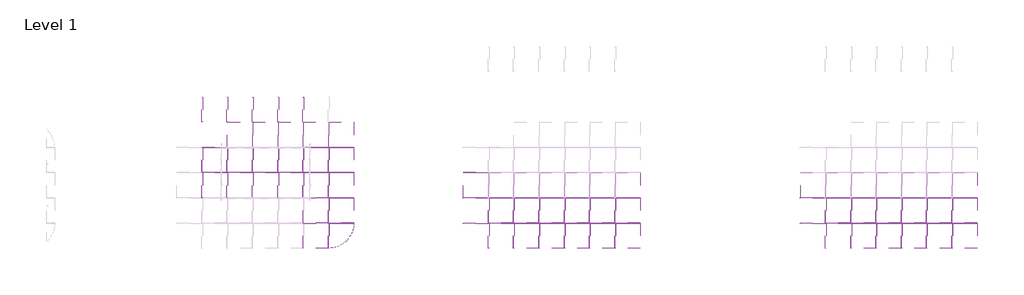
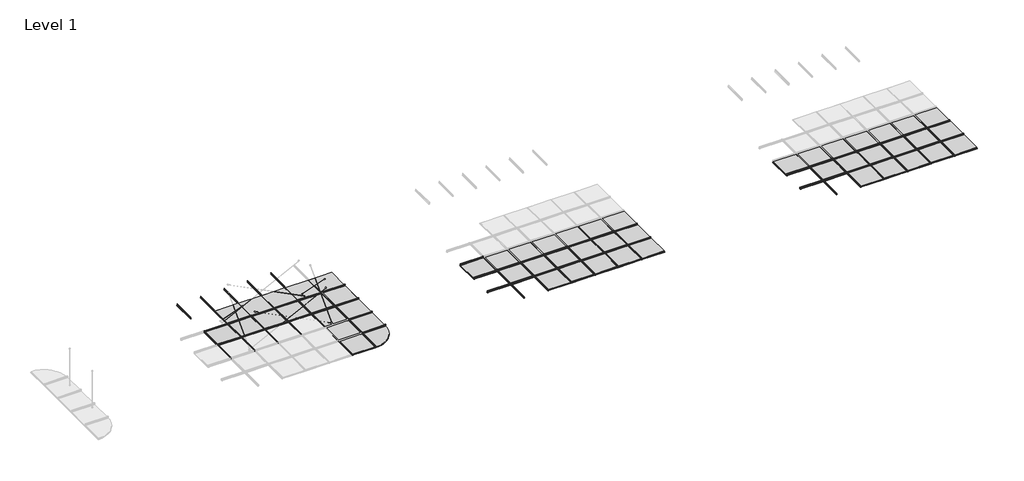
# One storey, part 2 of 3: 86 members, 53 plates.
"""IFC4 building model written with IfcOpenShell, lengths in millimetres."""

from ifc_helpers import new_model, si_unit, origin, place, context, project, spatial, transform, mapped, element, save
from components import circular_mullion_88ff0090, circular_mullion_f9b5ef4a, circular_mullion_51bf8350, circular_mullion_cross_tees_bf580255, plate_e06be09b, plate_8db3f6ee

model = new_model("IFC4")

# Units and contexts
model_context = context("Model", 3, world=origin())
ifc_project = project(units=[si_unit("LENGTHUNIT", "METRE", prefix="MILLI")], contexts=[model_context])

# Site, building, storey
site = spatial("IfcSite", under=ifc_project)
building = spatial("IfcBuilding", under=site)
storey = spatial("IfcBuildingStorey", under=building, Name="Level 1", Elevation=0.0)

# Members
placement = place(None, origin())
circular_mullion_shape = circular_mullion_88ff0090(model_context)
element("IfcMember", 1, ObjectType="Circular Mullion : Main Runners", at=placement, inside=storey, context=model_context, shape_type="MappedRepresentation", body=[
    mapped(circular_mullion_shape, transform((-2507.3919311, 8276.1970288, 2001.0), x_axis=(0.0, 1.0, 0.0), y_axis=(0.0, 0.0, -1.0), z_axis=(-1.0, 0.0, 0.0))),
])
element("IfcMember", 2, ObjectType="Circular Mullion : Main Runners", at=placement, inside=storey, context=model_context, shape_type="MappedRepresentation", body=[
    mapped(circular_mullion_shape, transform((-1907.3919311, 8276.1970288, 2001.0), x_axis=(0.0, 1.0, 0.0), y_axis=(0.0, 0.0, -1.0), z_axis=(-1.0, 0.0, 0.0))),
])
element("IfcMember", 3, ObjectType="Circular Mullion : Main Runners", at=placement, inside=storey, context=model_context, shape_type="MappedRepresentation", body=[
    mapped(circular_mullion_shape, transform((-1307.3919311, 8276.1970288, 2001.0), x_axis=(0.0, 1.0, 0.0), y_axis=(0.0, 0.0, -1.0), z_axis=(-1.0, 0.0, 0.0))),
])
element("IfcMember", 4, ObjectType="Circular Mullion : Main Runners", at=placement, inside=storey, context=model_context, shape_type="MappedRepresentation", body=[
    mapped(circular_mullion_shape, transform((-707.3919311, 8276.1970288, 2001.0), x_axis=(0.0, 1.0, 0.0), y_axis=(0.0, 0.0, -1.0), z_axis=(-1.0, 0.0, 0.0))),
])
element("IfcMember", 5, ObjectType="Circular Mullion : Main Runners", at=placement, inside=storey, context=model_context, shape_type="MappedRepresentation", body=[
    mapped(circular_mullion_shape, transform((-107.3919311, 8276.1970288, 2001.0), x_axis=(0.0, 1.0, 0.0), y_axis=(0.0, 0.0, -1.0), z_axis=(-1.0, 0.0, 0.0))),
])
element("IfcMember", 6, ObjectType="Circular Mullion : Main Runners", at=placement, inside=storey, context=model_context, shape_type="MappedRepresentation", body=[
    mapped(circular_mullion_shape, transform((-2507.3919311, 8876.1970288, 2001.0), x_axis=(0.0, 1.0, 0.0), y_axis=(0.0, 0.0, -1.0), z_axis=(-1.0, 0.0, 0.0))),
])
element("IfcMember", 7, ObjectType="Circular Mullion : Main Runners", at=placement, inside=storey, context=model_context, shape_type="MappedRepresentation", body=[
    mapped(circular_mullion_shape, transform((-1907.3919311, 8876.1970288, 2001.0), x_axis=(0.0, 1.0, 0.0), y_axis=(0.0, 0.0, -1.0), z_axis=(-1.0, 0.0, 0.0))),
])
element("IfcMember", 8, ObjectType="Circular Mullion : Main Runners", at=placement, inside=storey, context=model_context, shape_type="MappedRepresentation", body=[
    mapped(circular_mullion_shape, transform((-1307.3919311, 8876.1970288, 2001.0), x_axis=(0.0, 1.0, 0.0), y_axis=(0.0, 0.0, -1.0), z_axis=(-1.0, 0.0, 0.0))),
])
element("IfcMember", 9, ObjectType="Circular Mullion : Main Runners", at=placement, inside=storey, context=model_context, shape_type="MappedRepresentation", body=[
    mapped(circular_mullion_shape, transform((-707.3919311, 8876.1970288, 2001.0), x_axis=(0.0, 1.0, 0.0), y_axis=(0.0, 0.0, -1.0), z_axis=(-1.0, 0.0, 0.0))),
])
element("IfcMember", 10, ObjectType="Circular Mullion : Main Runners", at=placement, inside=storey, context=model_context, shape_type="MappedRepresentation", body=[
    mapped(circular_mullion_shape, transform((-107.3919311, 8876.1970288, 2001.0), x_axis=(0.0, 1.0, 0.0), y_axis=(0.0, 0.0, -1.0), z_axis=(-1.0, 0.0, 0.0))),
])
element("IfcMember", 11, ObjectType="Circular Mullion : Main Runners", at=placement, inside=storey, context=model_context, shape_type="MappedRepresentation", body=[
    mapped(circular_mullion_shape, transform((4292.6080689, 7076.1970288, 2001.0), x_axis=(0.0, 1.0, 0.0), y_axis=(0.0, 0.0, -1.0), z_axis=(-1.0, 0.0, 0.0))),
])
element("IfcMember", 12, ObjectType="Circular Mullion : Main Runners", at=placement, inside=storey, context=model_context, shape_type="MappedRepresentation", body=[
    mapped(circular_mullion_shape, transform((4892.6080689, 7076.1970288, 2001.0), x_axis=(0.0, 1.0, 0.0), y_axis=(0.0, 0.0, -1.0), z_axis=(-1.0, 0.0, 0.0))),
])
element("IfcMember", 13, ObjectType="Circular Mullion : Main Runners", at=placement, inside=storey, context=model_context, shape_type="MappedRepresentation", body=[
    mapped(circular_mullion_shape, transform((5492.6080689, 7076.1970288, 2001.0), x_axis=(0.0, 1.0, 0.0), y_axis=(0.0, 0.0, -1.0), z_axis=(-1.0, 0.0, 0.0))),
])
element("IfcMember", 14, ObjectType="Circular Mullion : Main Runners", at=placement, inside=storey, context=model_context, shape_type="MappedRepresentation", body=[
    mapped(circular_mullion_shape, transform((6092.6080689, 7076.1970288, 2001.0), x_axis=(0.0, 1.0, 0.0), y_axis=(0.0, 0.0, -1.0), z_axis=(-1.0, 0.0, 0.0))),
])
element("IfcMember", 15, ObjectType="Circular Mullion : Main Runners", at=placement, inside=storey, context=model_context, shape_type="MappedRepresentation", body=[
    mapped(circular_mullion_shape, transform((6692.6080689, 7076.1970288, 2001.0), x_axis=(0.0, 1.0, 0.0), y_axis=(0.0, 0.0, -1.0), z_axis=(-1.0, 0.0, 0.0))),
])
element("IfcMember", 16, ObjectType="Circular Mullion : Main Runners", at=placement, inside=storey, context=model_context, shape_type="MappedRepresentation", body=[
    mapped(circular_mullion_shape, transform((7292.6080689, 7076.1970288, 2001.0), x_axis=(0.0, 1.0, 0.0), y_axis=(0.0, 0.0, -1.0), z_axis=(-1.0, 0.0, 0.0))),
])
element("IfcMember", 17, ObjectType="Circular Mullion : Main Runners", at=placement, inside=storey, context=model_context, shape_type="MappedRepresentation", body=[
    mapped(circular_mullion_shape, transform((4292.6080689, 7676.1970288, 2001.0), x_axis=(0.0, 1.0, 0.0), y_axis=(0.0, 0.0, -1.0), z_axis=(-1.0, 0.0, 0.0))),
])
element("IfcMember", 18, ObjectType="Circular Mullion : Main Runners", at=placement, inside=storey, context=model_context, shape_type="MappedRepresentation", body=[
    mapped(circular_mullion_shape, transform((4892.6080689, 7676.1970288, 2001.0), x_axis=(0.0, 1.0, 0.0), y_axis=(0.0, 0.0, -1.0), z_axis=(-1.0, 0.0, 0.0))),
])
element("IfcMember", 19, ObjectType="Circular Mullion : Main Runners", at=placement, inside=storey, context=model_context, shape_type="MappedRepresentation", body=[
    mapped(circular_mullion_shape, transform((5492.6080689, 7676.1970288, 2001.0), x_axis=(0.0, 1.0, 0.0), y_axis=(0.0, 0.0, -1.0), z_axis=(-1.0, 0.0, 0.0))),
])
element("IfcMember", 20, ObjectType="Circular Mullion : Main Runners", at=placement, inside=storey, context=model_context, shape_type="MappedRepresentation", body=[
    mapped(circular_mullion_shape, transform((6092.6080689, 7676.1970288, 2001.0), x_axis=(0.0, 1.0, 0.0), y_axis=(0.0, 0.0, -1.0), z_axis=(-1.0, 0.0, 0.0))),
])
element("IfcMember", 21, ObjectType="Circular Mullion : Main Runners", at=placement, inside=storey, context=model_context, shape_type="MappedRepresentation", body=[
    mapped(circular_mullion_shape, transform((6692.6080689, 7676.1970288, 2001.0), x_axis=(0.0, 1.0, 0.0), y_axis=(0.0, 0.0, -1.0), z_axis=(-1.0, 0.0, 0.0))),
])
element("IfcMember", 22, ObjectType="Circular Mullion : Main Runners", at=placement, inside=storey, context=model_context, shape_type="MappedRepresentation", body=[
    mapped(circular_mullion_shape, transform((7292.6080689, 7676.1970288, 2001.0), x_axis=(0.0, 1.0, 0.0), y_axis=(0.0, 0.0, -1.0), z_axis=(-1.0, 0.0, 0.0))),
])
element("IfcMember", 23, ObjectType="Circular Mullion : Main Runners", at=placement, inside=storey, context=model_context, shape_type="MappedRepresentation", body=[
    mapped(circular_mullion_shape, transform((12292.6080689, 7076.1970288, 2001.0), x_axis=(0.0, 1.0, 0.0), y_axis=(0.0, 0.0, -1.0), z_axis=(-1.0, 0.0, 0.0))),
])
element("IfcMember", 24, ObjectType="Circular Mullion : Main Runners", at=placement, inside=storey, context=model_context, shape_type="MappedRepresentation", body=[
    mapped(circular_mullion_shape, transform((12892.6080689, 7076.1970288, 2001.0), x_axis=(0.0, 1.0, 0.0), y_axis=(0.0, 0.0, -1.0), z_axis=(-1.0, 0.0, 0.0))),
])
element("IfcMember", 25, ObjectType="Circular Mullion : Main Runners", at=placement, inside=storey, context=model_context, shape_type="MappedRepresentation", body=[
    mapped(circular_mullion_shape, transform((13492.6080689, 7076.1970288, 2001.0), x_axis=(0.0, 1.0, 0.0), y_axis=(0.0, 0.0, -1.0), z_axis=(-1.0, 0.0, 0.0))),
])
element("IfcMember", 26, ObjectType="Circular Mullion : Main Runners", at=placement, inside=storey, context=model_context, shape_type="MappedRepresentation", body=[
    mapped(circular_mullion_shape, transform((14092.6080689, 7076.1970288, 2001.0), x_axis=(0.0, 1.0, 0.0), y_axis=(0.0, 0.0, -1.0), z_axis=(-1.0, 0.0, 0.0))),
])
element("IfcMember", 27, ObjectType="Circular Mullion : Main Runners", at=placement, inside=storey, context=model_context, shape_type="MappedRepresentation", body=[
    mapped(circular_mullion_shape, transform((14692.6080689, 7076.1970288, 2001.0), x_axis=(0.0, 1.0, 0.0), y_axis=(0.0, 0.0, -1.0), z_axis=(-1.0, 0.0, 0.0))),
])
element("IfcMember", 28, ObjectType="Circular Mullion : Main Runners", at=placement, inside=storey, context=model_context, shape_type="MappedRepresentation", body=[
    mapped(circular_mullion_shape, transform((15292.6080689, 7076.1970288, 2001.0), x_axis=(0.0, 1.0, 0.0), y_axis=(0.0, 0.0, -1.0), z_axis=(-1.0, 0.0, 0.0))),
])
element("IfcMember", 29, ObjectType="Circular Mullion : Main Runners", at=placement, inside=storey, context=model_context, shape_type="MappedRepresentation", body=[
    mapped(circular_mullion_shape, transform((12292.6080689, 7676.1970288, 2001.0), x_axis=(0.0, 1.0, 0.0), y_axis=(0.0, 0.0, -1.0), z_axis=(-1.0, 0.0, 0.0))),
])
element("IfcMember", 30, ObjectType="Circular Mullion : Main Runners", at=placement, inside=storey, context=model_context, shape_type="MappedRepresentation", body=[
    mapped(circular_mullion_shape, transform((12892.6080689, 7676.1970288, 2001.0), x_axis=(0.0, 1.0, 0.0), y_axis=(0.0, 0.0, -1.0), z_axis=(-1.0, 0.0, 0.0))),
])
element("IfcMember", 31, ObjectType="Circular Mullion : Main Runners", at=placement, inside=storey, context=model_context, shape_type="MappedRepresentation", body=[
    mapped(circular_mullion_shape, transform((13492.6080689, 7676.1970288, 2001.0), x_axis=(0.0, 1.0, 0.0), y_axis=(0.0, 0.0, -1.0), z_axis=(-1.0, 0.0, 0.0))),
])
element("IfcMember", 32, ObjectType="Circular Mullion : Main Runners", at=placement, inside=storey, context=model_context, shape_type="MappedRepresentation", body=[
    mapped(circular_mullion_shape, transform((14092.6080689, 7676.1970288, 2001.0), x_axis=(0.0, 1.0, 0.0), y_axis=(0.0, 0.0, -1.0), z_axis=(-1.0, 0.0, 0.0))),
])
element("IfcMember", 33, ObjectType="Circular Mullion : Main Runners", at=placement, inside=storey, context=model_context, shape_type="MappedRepresentation", body=[
    mapped(circular_mullion_shape, transform((14692.6080689, 7676.1970288, 2001.0), x_axis=(0.0, 1.0, 0.0), y_axis=(0.0, 0.0, -1.0), z_axis=(-1.0, 0.0, 0.0))),
])
element("IfcMember", 34, ObjectType="Circular Mullion : Main Runners", at=placement, inside=storey, context=model_context, shape_type="MappedRepresentation", body=[
    mapped(circular_mullion_shape, transform((15292.6080689, 7676.1970288, 2001.0), x_axis=(0.0, 1.0, 0.0), y_axis=(0.0, 0.0, -1.0), z_axis=(-1.0, 0.0, 0.0))),
])
circular_mullion_2_shape = circular_mullion_f9b5ef4a(model_context)
element("IfcMember", 35, ObjectType="Circular Mullion : Main Runners", at=placement, inside=storey, context=model_context, shape_type="MappedRepresentation", body=[
    mapped(circular_mullion_2_shape, transform((3680.7018185, 7076.1970288, 2001.0), x_axis=(0.0, 1.0, 0.0), y_axis=(0.0, 0.0, -1.0), z_axis=(-1.0, 0.0, 0.0))),
])
element("IfcMember", 36, ObjectType="Circular Mullion : Main Runners", at=placement, inside=storey, context=model_context, shape_type="MappedRepresentation", body=[
    mapped(circular_mullion_2_shape, transform((3680.7018185, 7676.1970288, 2001.0), x_axis=(0.0, 1.0, 0.0), y_axis=(0.0, 0.0, -1.0), z_axis=(-1.0, 0.0, 0.0))),
])
element("IfcMember", 37, ObjectType="Circular Mullion : Main Runners", at=placement, inside=storey, context=model_context, shape_type="MappedRepresentation", body=[
    mapped(circular_mullion_2_shape, transform((3680.7018185, 8276.1970288, 2001.0), x_axis=(0.0, 1.0, 0.0), y_axis=(0.0, 0.0, -1.0), z_axis=(-1.0, 0.0, 0.0))),
])
element("IfcMember", 38, ObjectType="Circular Mullion : Main Runners", at=placement, inside=storey, context=model_context, shape_type="MappedRepresentation", body=[
    mapped(circular_mullion_2_shape, transform((11680.7018185, 7076.1970288, 2001.0), x_axis=(0.0, 1.0, 0.0), y_axis=(0.0, 0.0, -1.0), z_axis=(-1.0, 0.0, 0.0))),
])
element("IfcMember", 39, ObjectType="Circular Mullion : Main Runners", at=placement, inside=storey, context=model_context, shape_type="MappedRepresentation", body=[
    mapped(circular_mullion_2_shape, transform((11680.7018185, 7676.1970288, 2001.0), x_axis=(0.0, 1.0, 0.0), y_axis=(0.0, 0.0, -1.0), z_axis=(-1.0, 0.0, 0.0))),
])
circular_mullion_3_shape = circular_mullion_51bf8350(model_context)
element("IfcMember", 40, ObjectType="Circular Mullion : Main Runners", at=placement, inside=storey, context=model_context, shape_type="MappedRepresentation", body=[
    mapped(circular_mullion_3_shape, transform((492.6080689, 7076.1970288, 2001.0), x_axis=(0.0, 1.0, 0.0), y_axis=(0.0, 0.0, -1.0), z_axis=(-1.0, 0.0, 0.0))),
])
element("IfcMember", 41, ObjectType="Circular Mullion : Main Runners", at=placement, inside=storey, context=model_context, shape_type="MappedRepresentation", body=[
    mapped(circular_mullion_3_shape, transform((492.6080689, 7676.1970288, 2001.0), x_axis=(0.0, 1.0, 0.0), y_axis=(0.0, 0.0, -1.0), z_axis=(-1.0, 0.0, 0.0))),
])
element("IfcMember", 42, ObjectType="Circular Mullion : Main Runners", at=placement, inside=storey, context=model_context, shape_type="MappedRepresentation", body=[
    mapped(circular_mullion_3_shape, transform((492.6080689, 8276.1970288, 2001.0), x_axis=(0.0, 1.0, 0.0), y_axis=(0.0, 0.0, -1.0), z_axis=(-1.0, 0.0, 0.0))),
])
element("IfcMember", 43, ObjectType="Circular Mullion : Main Runners", at=placement, inside=storey, context=model_context, shape_type="MappedRepresentation", body=[
    mapped(circular_mullion_3_shape, transform((492.6080689, 8876.1970288, 2001.0), x_axis=(0.0, 1.0, 0.0), y_axis=(0.0, 0.0, -1.0), z_axis=(-1.0, 0.0, 0.0))),
])
circular_mullion_cross_tees_shape = circular_mullion_cross_tees_bf580255(model_context)
element("IfcMember", 44, ObjectType="Circular Mullion : Cross Tees", at=placement, inside=storey, context=model_context, shape_type="MappedRepresentation", body=[
    mapped(circular_mullion_cross_tees_shape, transform((480.7018189, 7676.1970288, 2001.0), x_axis=(1.0, 0.0, 0.0), y_axis=(0.0, 0.0, -1.0), z_axis=(0.0, 1.0, 0.0))),
])
element("IfcMember", 45, ObjectType="Circular Mullion : Cross Tees", at=placement, inside=storey, context=model_context, shape_type="MappedRepresentation", body=[
    mapped(circular_mullion_cross_tees_shape, transform((-2519.2981811, 8276.1970288, 2001.0), x_axis=(1.0, 0.0, 0.0), y_axis=(0.0, 0.0, -1.0), z_axis=(0.0, 1.0, 0.0))),
])
element("IfcMember", 46, ObjectType="Circular Mullion : Cross Tees", at=placement, inside=storey, context=model_context, shape_type="MappedRepresentation", body=[
    mapped(circular_mullion_cross_tees_shape, transform((-1919.2981811, 8276.1970288, 2001.0), x_axis=(1.0, 0.0, 0.0), y_axis=(0.0, 0.0, -1.0), z_axis=(0.0, 1.0, 0.0))),
])
element("IfcMember", 47, ObjectType="Circular Mullion : Cross Tees", at=placement, inside=storey, context=model_context, shape_type="MappedRepresentation", body=[
    mapped(circular_mullion_cross_tees_shape, transform((-1319.2981811, 8276.1970288, 2001.0), x_axis=(1.0, 0.0, 0.0), y_axis=(0.0, 0.0, -1.0), z_axis=(0.0, 1.0, 0.0))),
])
element("IfcMember", 48, ObjectType="Circular Mullion : Cross Tees", at=placement, inside=storey, context=model_context, shape_type="MappedRepresentation", body=[
    mapped(circular_mullion_cross_tees_shape, transform((-719.2981811, 8276.1970288, 2001.0), x_axis=(1.0, 0.0, 0.0), y_axis=(0.0, 0.0, -1.0), z_axis=(0.0, 1.0, 0.0))),
])
element("IfcMember", 49, ObjectType="Circular Mullion : Cross Tees", at=placement, inside=storey, context=model_context, shape_type="MappedRepresentation", body=[
    mapped(circular_mullion_cross_tees_shape, transform((-119.2981811, 8276.1970288, 2001.0), x_axis=(1.0, 0.0, 0.0), y_axis=(0.0, 0.0, -1.0), z_axis=(0.0, 1.0, 0.0))),
])
element("IfcMember", 50, ObjectType="Circular Mullion : Cross Tees", at=placement, inside=storey, context=model_context, shape_type="MappedRepresentation", body=[
    mapped(circular_mullion_cross_tees_shape, transform((480.7018189, 8276.1970288, 2001.0), x_axis=(1.0, 0.0, 0.0), y_axis=(0.0, 0.0, -1.0), z_axis=(0.0, 1.0, 0.0))),
])
element("IfcMember", 51, ObjectType="Circular Mullion : Cross Tees", at=placement, inside=storey, context=model_context, shape_type="MappedRepresentation", body=[
    mapped(circular_mullion_cross_tees_shape, transform((-2519.2981811, 8876.1970288, 2001.0), x_axis=(1.0, 0.0, 0.0), y_axis=(0.0, 0.0, -1.0), z_axis=(0.0, 1.0, 0.0))),
])
element("IfcMember", 52, ObjectType="Circular Mullion : Cross Tees", at=placement, inside=storey, context=model_context, shape_type="MappedRepresentation", body=[
    mapped(circular_mullion_cross_tees_shape, transform((-1919.2981811, 8876.1970288, 2001.0), x_axis=(1.0, 0.0, 0.0), y_axis=(0.0, 0.0, -1.0), z_axis=(0.0, 1.0, 0.0))),
])
element("IfcMember", 53, ObjectType="Circular Mullion : Cross Tees", at=placement, inside=storey, context=model_context, shape_type="MappedRepresentation", body=[
    mapped(circular_mullion_cross_tees_shape, transform((-1319.2981811, 8876.1970288, 2001.0), x_axis=(1.0, 0.0, 0.0), y_axis=(0.0, 0.0, -1.0), z_axis=(0.0, 1.0, 0.0))),
])
element("IfcMember", 54, ObjectType="Circular Mullion : Cross Tees", at=placement, inside=storey, context=model_context, shape_type="MappedRepresentation", body=[
    mapped(circular_mullion_cross_tees_shape, transform((-719.2981811, 8876.1970288, 2001.0), x_axis=(1.0, 0.0, 0.0), y_axis=(0.0, 0.0, -1.0), z_axis=(0.0, 1.0, 0.0))),
])
element("IfcMember", 55, ObjectType="Circular Mullion : Cross Tees", at=placement, inside=storey, context=model_context, shape_type="MappedRepresentation", body=[
    mapped(circular_mullion_cross_tees_shape, transform((-119.2981811, 8876.1970288, 2001.0), x_axis=(1.0, 0.0, 0.0), y_axis=(0.0, 0.0, -1.0), z_axis=(0.0, 1.0, 0.0))),
])
element("IfcMember", 56, ObjectType="Circular Mullion : Cross Tees", at=placement, inside=storey, context=model_context, shape_type="MappedRepresentation", body=[
    mapped(circular_mullion_cross_tees_shape, transform((480.7018189, 8876.1970288, 2001.0), x_axis=(1.0, 0.0, 0.0), y_axis=(0.0, 0.0, -1.0), z_axis=(0.0, 1.0, 0.0))),
])
element("IfcMember", 57, ObjectType="Circular Mullion : Cross Tees", at=placement, inside=storey, context=model_context, shape_type="MappedRepresentation", body=[
    mapped(circular_mullion_cross_tees_shape, transform((4280.7018189, 7676.1970288, 2001.0), x_axis=(1.0, 0.0, 0.0), y_axis=(0.0, 0.0, -1.0), z_axis=(0.0, 1.0, 0.0))),
])
element("IfcMember", 58, ObjectType="Circular Mullion : Cross Tees", at=placement, inside=storey, context=model_context, shape_type="MappedRepresentation", body=[
    mapped(circular_mullion_cross_tees_shape, transform((4880.7018189, 7676.1970288, 2001.0), x_axis=(1.0, 0.0, 0.0), y_axis=(0.0, 0.0, -1.0), z_axis=(0.0, 1.0, 0.0))),
])
element("IfcMember", 59, ObjectType="Circular Mullion : Cross Tees", at=placement, inside=storey, context=model_context, shape_type="MappedRepresentation", body=[
    mapped(circular_mullion_cross_tees_shape, transform((5480.7018189, 7676.1970288, 2001.0), x_axis=(1.0, 0.0, 0.0), y_axis=(0.0, 0.0, -1.0), z_axis=(0.0, 1.0, 0.0))),
])
element("IfcMember", 60, ObjectType="Circular Mullion : Cross Tees", at=placement, inside=storey, context=model_context, shape_type="MappedRepresentation", body=[
    mapped(circular_mullion_cross_tees_shape, transform((6080.7018189, 7676.1970288, 2001.0), x_axis=(1.0, 0.0, 0.0), y_axis=(0.0, 0.0, -1.0), z_axis=(0.0, 1.0, 0.0))),
])
element("IfcMember", 61, ObjectType="Circular Mullion : Cross Tees", at=placement, inside=storey, context=model_context, shape_type="MappedRepresentation", body=[
    mapped(circular_mullion_cross_tees_shape, transform((6680.7018189, 7676.1970288, 2001.0), x_axis=(1.0, 0.0, 0.0), y_axis=(0.0, 0.0, -1.0), z_axis=(0.0, 1.0, 0.0))),
])
element("IfcMember", 62, ObjectType="Circular Mullion : Cross Tees", at=placement, inside=storey, context=model_context, shape_type="MappedRepresentation", body=[
    mapped(circular_mullion_cross_tees_shape, transform((7280.7018189, 7676.1970288, 2001.0), x_axis=(1.0, 0.0, 0.0), y_axis=(0.0, 0.0, -1.0), z_axis=(0.0, 1.0, 0.0))),
])
element("IfcMember", 63, ObjectType="Circular Mullion : Cross Tees", at=placement, inside=storey, context=model_context, shape_type="MappedRepresentation", body=[
    mapped(circular_mullion_cross_tees_shape, transform((12280.7018189, 7676.1970288, 2001.0), x_axis=(1.0, 0.0, 0.0), y_axis=(0.0, 0.0, -1.0), z_axis=(0.0, 1.0, 0.0))),
])
element("IfcMember", 64, ObjectType="Circular Mullion : Cross Tees", at=placement, inside=storey, context=model_context, shape_type="MappedRepresentation", body=[
    mapped(circular_mullion_cross_tees_shape, transform((12880.7018189, 7676.1970288, 2001.0), x_axis=(1.0, 0.0, 0.0), y_axis=(0.0, 0.0, -1.0), z_axis=(0.0, 1.0, 0.0))),
])
element("IfcMember", 65, ObjectType="Circular Mullion : Cross Tees", at=placement, inside=storey, context=model_context, shape_type="MappedRepresentation", body=[
    mapped(circular_mullion_cross_tees_shape, transform((13480.7018189, 7676.1970288, 2001.0), x_axis=(1.0, 0.0, 0.0), y_axis=(0.0, 0.0, -1.0), z_axis=(0.0, 1.0, 0.0))),
])
element("IfcMember", 66, ObjectType="Circular Mullion : Cross Tees", at=placement, inside=storey, context=model_context, shape_type="MappedRepresentation", body=[
    mapped(circular_mullion_cross_tees_shape, transform((14080.7018189, 7676.1970288, 2001.0), x_axis=(1.0, 0.0, 0.0), y_axis=(0.0, 0.0, -1.0), z_axis=(0.0, 1.0, 0.0))),
])
element("IfcMember", 67, ObjectType="Circular Mullion : Cross Tees", at=placement, inside=storey, context=model_context, shape_type="MappedRepresentation", body=[
    mapped(circular_mullion_cross_tees_shape, transform((14680.7018189, 7676.1970288, 2001.0), x_axis=(1.0, 0.0, 0.0), y_axis=(0.0, 0.0, -1.0), z_axis=(0.0, 1.0, 0.0))),
])
element("IfcMember", 68, ObjectType="Circular Mullion : Cross Tees", at=placement, inside=storey, context=model_context, shape_type="MappedRepresentation", body=[
    mapped(circular_mullion_cross_tees_shape, transform((15280.7018189, 7676.1970288, 2001.0), x_axis=(1.0, 0.0, 0.0), y_axis=(0.0, 0.0, -1.0), z_axis=(0.0, 1.0, 0.0))),
])
element("IfcMember", 69, ObjectType="Circular Mullion : Cross Tees", at=placement, inside=storey, context=model_context, shape_type="MappedRepresentation", body=[
    mapped(circular_mullion_cross_tees_shape, transform((480.7018189, 7076.1970288, 2001.0), x_axis=(1.0, 0.0, 0.0), y_axis=(0.0, 0.0, -1.0), z_axis=(0.0, 1.0, 0.0))),
])
element("IfcMember", 70, ObjectType="Circular Mullion : Cross Tees", at=placement, inside=storey, context=model_context, shape_type="MappedRepresentation", body=[
    mapped(circular_mullion_cross_tees_shape, transform((4280.7018189, 7076.1970288, 2001.0), x_axis=(1.0, 0.0, 0.0), y_axis=(0.0, 0.0, -1.0), z_axis=(0.0, 1.0, 0.0))),
])
element("IfcMember", 71, ObjectType="Circular Mullion : Cross Tees", at=placement, inside=storey, context=model_context, shape_type="MappedRepresentation", body=[
    mapped(circular_mullion_cross_tees_shape, transform((4880.7018189, 7076.1970288, 2001.0), x_axis=(1.0, 0.0, 0.0), y_axis=(0.0, 0.0, -1.0), z_axis=(0.0, 1.0, 0.0))),
])
element("IfcMember", 72, ObjectType="Circular Mullion : Cross Tees", at=placement, inside=storey, context=model_context, shape_type="MappedRepresentation", body=[
    mapped(circular_mullion_cross_tees_shape, transform((5480.7018189, 7076.1970288, 2001.0), x_axis=(1.0, 0.0, 0.0), y_axis=(0.0, 0.0, -1.0), z_axis=(0.0, 1.0, 0.0))),
])
element("IfcMember", 73, ObjectType="Circular Mullion : Cross Tees", at=placement, inside=storey, context=model_context, shape_type="MappedRepresentation", body=[
    mapped(circular_mullion_cross_tees_shape, transform((6080.7018189, 7076.1970288, 2001.0), x_axis=(1.0, 0.0, 0.0), y_axis=(0.0, 0.0, -1.0), z_axis=(0.0, 1.0, 0.0))),
])
element("IfcMember", 74, ObjectType="Circular Mullion : Cross Tees", at=placement, inside=storey, context=model_context, shape_type="MappedRepresentation", body=[
    mapped(circular_mullion_cross_tees_shape, transform((6680.7018189, 7076.1970288, 2001.0), x_axis=(1.0, 0.0, 0.0), y_axis=(0.0, 0.0, -1.0), z_axis=(0.0, 1.0, 0.0))),
])
element("IfcMember", 75, ObjectType="Circular Mullion : Cross Tees", at=placement, inside=storey, context=model_context, shape_type="MappedRepresentation", body=[
    mapped(circular_mullion_cross_tees_shape, transform((7280.7018189, 7076.1970288, 2001.0), x_axis=(1.0, 0.0, 0.0), y_axis=(0.0, 0.0, -1.0), z_axis=(0.0, 1.0, 0.0))),
])
element("IfcMember", 76, ObjectType="Circular Mullion : Cross Tees", at=placement, inside=storey, context=model_context, shape_type="MappedRepresentation", body=[
    mapped(circular_mullion_cross_tees_shape, transform((12280.7018189, 7076.1970288, 2001.0), x_axis=(1.0, 0.0, 0.0), y_axis=(0.0, 0.0, -1.0), z_axis=(0.0, 1.0, 0.0))),
])
element("IfcMember", 77, ObjectType="Circular Mullion : Cross Tees", at=placement, inside=storey, context=model_context, shape_type="MappedRepresentation", body=[
    mapped(circular_mullion_cross_tees_shape, transform((12880.7018189, 7076.1970288, 2001.0), x_axis=(1.0, 0.0, 0.0), y_axis=(0.0, 0.0, -1.0), z_axis=(0.0, 1.0, 0.0))),
])
element("IfcMember", 78, ObjectType="Circular Mullion : Cross Tees", at=placement, inside=storey, context=model_context, shape_type="MappedRepresentation", body=[
    mapped(circular_mullion_cross_tees_shape, transform((13480.7018189, 7076.1970288, 2001.0), x_axis=(1.0, 0.0, 0.0), y_axis=(0.0, 0.0, -1.0), z_axis=(0.0, 1.0, 0.0))),
])
element("IfcMember", 79, ObjectType="Circular Mullion : Cross Tees", at=placement, inside=storey, context=model_context, shape_type="MappedRepresentation", body=[
    mapped(circular_mullion_cross_tees_shape, transform((14080.7018189, 7076.1970288, 2001.0), x_axis=(1.0, 0.0, 0.0), y_axis=(0.0, 0.0, -1.0), z_axis=(0.0, 1.0, 0.0))),
])
element("IfcMember", 80, ObjectType="Circular Mullion : Cross Tees", at=placement, inside=storey, context=model_context, shape_type="MappedRepresentation", body=[
    mapped(circular_mullion_cross_tees_shape, transform((14680.7018189, 7076.1970288, 2001.0), x_axis=(1.0, 0.0, 0.0), y_axis=(0.0, 0.0, -1.0), z_axis=(0.0, 1.0, 0.0))),
])
element("IfcMember", 81, ObjectType="Circular Mullion : Cross Tees", at=placement, inside=storey, context=model_context, shape_type="MappedRepresentation", body=[
    mapped(circular_mullion_cross_tees_shape, transform((15280.7018189, 7076.1970288, 2001.0), x_axis=(1.0, 0.0, 0.0), y_axis=(0.0, 0.0, -1.0), z_axis=(0.0, 1.0, 0.0))),
])
element("IfcMember", 82, ObjectType="Circular Mullion : Cross Tees", at=placement, inside=storey, context=model_context, shape_type="MappedRepresentation", body=[
    mapped(circular_mullion_cross_tees_shape, transform((-2519.2981811, 10076.1970288, 2001.0), x_axis=(1.0, 0.0, 0.0), y_axis=(0.0, 0.0, -1.0), z_axis=(0.0, 1.0, 0.0))),
])
element("IfcMember", 83, ObjectType="Circular Mullion : Cross Tees", at=placement, inside=storey, context=model_context, shape_type="MappedRepresentation", body=[
    mapped(circular_mullion_cross_tees_shape, transform((-1919.2981811, 10076.1970288, 2001.0), x_axis=(1.0, 0.0, 0.0), y_axis=(0.0, 0.0, -1.0), z_axis=(0.0, 1.0, 0.0))),
])
element("IfcMember", 84, ObjectType="Circular Mullion : Cross Tees", at=placement, inside=storey, context=model_context, shape_type="MappedRepresentation", body=[
    mapped(circular_mullion_cross_tees_shape, transform((-1319.2981811, 10076.1970288, 2001.0), x_axis=(1.0, 0.0, 0.0), y_axis=(0.0, 0.0, -1.0), z_axis=(0.0, 1.0, 0.0))),
])
element("IfcMember", 85, ObjectType="Circular Mullion : Cross Tees", at=placement, inside=storey, context=model_context, shape_type="MappedRepresentation", body=[
    mapped(circular_mullion_cross_tees_shape, transform((-719.2981811, 10076.1970288, 2001.0), x_axis=(1.0, 0.0, 0.0), y_axis=(0.0, 0.0, -1.0), z_axis=(0.0, 1.0, 0.0))),
])
element("IfcMember", 86, ObjectType="Circular Mullion : Cross Tees", at=placement, inside=storey, context=model_context, shape_type="MappedRepresentation", body=[
    mapped(circular_mullion_cross_tees_shape, transform((-119.2981811, 10076.1970288, 2001.0), x_axis=(1.0, 0.0, 0.0), y_axis=(0.0, 0.0, -1.0), z_axis=(0.0, 1.0, 0.0))),
])

# Plates
plate_shape = plate_e06be09b(model_context)
element("IfcPlate", 87, ObjectType="Rockfon X CORNER 3 : Rockfon Blanka X", at=placement, inside=storey, context=model_context, shape_type="MappedRepresentation", body=[
    mapped(plate_shape, transform((780.7018189, 6476.1970288, 2001.0), x_axis=(1.0, 0.0, 0.0), y_axis=(0.0, 0.0, -1.0), z_axis=(0.0, 1.0, 0.0))),
])
plate_2_shape = plate_8db3f6ee(model_context)
element("IfcPlate", 88, ObjectType="Rockfon Blanka X : Rockfon Blanka X", at=placement, inside=storey, context=model_context, shape_type="MappedRepresentation", body=[
    mapped(plate_2_shape, transform((180.7018189, 6476.1970288, 2001.0), x_axis=(1.0, 0.0, 0.0), y_axis=(0.0, 0.0, -1.0), z_axis=(0.0, 1.0, 0.0))),
])
element("IfcPlate", 89, ObjectType="Rockfon Blanka X : Rockfon Blanka X", at=placement, inside=storey, context=model_context, shape_type="MappedRepresentation", body=[
    mapped(plate_2_shape, transform((180.7018189, 7076.1970288, 2001.0), x_axis=(1.0, 0.0, 0.0), y_axis=(0.0, 0.0, -1.0), z_axis=(0.0, 1.0, 0.0))),
])
element("IfcPlate", 90, ObjectType="Rockfon Blanka X : Rockfon Blanka X", at=placement, inside=storey, context=model_context, shape_type="MappedRepresentation", body=[
    mapped(plate_2_shape, transform((780.7018189, 7076.1970288, 2001.0), x_axis=(1.0, 0.0, 0.0), y_axis=(0.0, 0.0, -1.0), z_axis=(0.0, 1.0, 0.0))),
])
element("IfcPlate", 91, ObjectType="Rockfon Blanka X : Rockfon Blanka X", at=placement, inside=storey, context=model_context, shape_type="MappedRepresentation", body=[
    mapped(plate_2_shape, transform((180.7018189, 7676.1970288, 2001.0), x_axis=(1.0, 0.0, 0.0), y_axis=(0.0, 0.0, -1.0), z_axis=(0.0, 1.0, 0.0))),
])
element("IfcPlate", 92, ObjectType="Rockfon Blanka X : Rockfon Blanka X", at=placement, inside=storey, context=model_context, shape_type="MappedRepresentation", body=[
    mapped(plate_2_shape, transform((780.7018189, 7676.1970288, 2001.0), x_axis=(1.0, 0.0, 0.0), y_axis=(0.0, 0.0, -1.0), z_axis=(0.0, 1.0, 0.0))),
])
element("IfcPlate", 93, ObjectType="Rockfon Blanka X : Rockfon Blanka X", at=placement, inside=storey, context=model_context, shape_type="MappedRepresentation", body=[
    mapped(plate_2_shape, transform((-2219.2981811, 8276.1970288, 2001.0), x_axis=(1.0, 0.0, 0.0), y_axis=(0.0, 0.0, -1.0), z_axis=(0.0, 1.0, 0.0))),
])
element("IfcPlate", 94, ObjectType="Rockfon Blanka X : Rockfon Blanka X", at=placement, inside=storey, context=model_context, shape_type="MappedRepresentation", body=[
    mapped(plate_2_shape, transform((-1619.2981811, 8276.1970288, 2001.0), x_axis=(1.0, 0.0, 0.0), y_axis=(0.0, 0.0, -1.0), z_axis=(0.0, 1.0, 0.0))),
])
element("IfcPlate", 95, ObjectType="Rockfon Blanka X : Rockfon Blanka X", at=placement, inside=storey, context=model_context, shape_type="MappedRepresentation", body=[
    mapped(plate_2_shape, transform((-1019.2981811, 8276.1970288, 2001.0), x_axis=(1.0, 0.0, 0.0), y_axis=(0.0, 0.0, -1.0), z_axis=(0.0, 1.0, 0.0))),
])
element("IfcPlate", 96, ObjectType="Rockfon Blanka X : Rockfon Blanka X", at=placement, inside=storey, context=model_context, shape_type="MappedRepresentation", body=[
    mapped(plate_2_shape, transform((-419.2981811, 8276.1970288, 2001.0), x_axis=(1.0, 0.0, 0.0), y_axis=(0.0, 0.0, -1.0), z_axis=(0.0, 1.0, 0.0))),
])
element("IfcPlate", 97, ObjectType="Rockfon Blanka X : Rockfon Blanka X", at=placement, inside=storey, context=model_context, shape_type="MappedRepresentation", body=[
    mapped(plate_2_shape, transform((180.7018189, 8276.1970288, 2001.0), x_axis=(1.0, 0.0, 0.0), y_axis=(0.0, 0.0, -1.0), z_axis=(0.0, 1.0, 0.0))),
])
element("IfcPlate", 98, ObjectType="Rockfon Blanka X : Rockfon Blanka X", at=placement, inside=storey, context=model_context, shape_type="MappedRepresentation", body=[
    mapped(plate_2_shape, transform((780.7018189, 8276.1970288, 2001.0), x_axis=(1.0, 0.0, 0.0), y_axis=(0.0, 0.0, -1.0), z_axis=(0.0, 1.0, 0.0))),
])
element("IfcPlate", 99, ObjectType="Rockfon Blanka X : Rockfon Blanka X", at=placement, inside=storey, context=model_context, shape_type="MappedRepresentation", body=[
    mapped(plate_2_shape, transform((-1619.2981811, 8876.1970288, 2001.0), x_axis=(1.0, 0.0, 0.0), y_axis=(0.0, 0.0, -1.0), z_axis=(0.0, 1.0, 0.0))),
])
element("IfcPlate", 100, ObjectType="Rockfon Blanka X : Rockfon Blanka X", at=placement, inside=storey, context=model_context, shape_type="MappedRepresentation", body=[
    mapped(plate_2_shape, transform((-1019.2981811, 8876.1970288, 2001.0), x_axis=(1.0, 0.0, 0.0), y_axis=(0.0, 0.0, -1.0), z_axis=(0.0, 1.0, 0.0))),
])
element("IfcPlate", 101, ObjectType="Rockfon Blanka X : Rockfon Blanka X", at=placement, inside=storey, context=model_context, shape_type="MappedRepresentation", body=[
    mapped(plate_2_shape, transform((-419.2981811, 8876.1970288, 2001.0), x_axis=(1.0, 0.0, 0.0), y_axis=(0.0, 0.0, -1.0), z_axis=(0.0, 1.0, 0.0))),
])
element("IfcPlate", 102, ObjectType="Rockfon Blanka X : Rockfon Blanka X", at=placement, inside=storey, context=model_context, shape_type="MappedRepresentation", body=[
    mapped(plate_2_shape, transform((180.7018189, 8876.1970288, 2001.0), x_axis=(1.0, 0.0, 0.0), y_axis=(0.0, 0.0, -1.0), z_axis=(0.0, 1.0, 0.0))),
])
element("IfcPlate", 103, ObjectType="Rockfon Blanka X : Rockfon Blanka X", at=placement, inside=storey, context=model_context, shape_type="MappedRepresentation", body=[
    mapped(plate_2_shape, transform((780.7018189, 8876.1970288, 2001.0), x_axis=(1.0, 0.0, 0.0), y_axis=(0.0, 0.0, -1.0), z_axis=(0.0, 1.0, 0.0))),
])
element("IfcPlate", 104, ObjectType="Rockfon Blanka X : Rockfon Blanka X", at=placement, inside=storey, context=model_context, shape_type="MappedRepresentation", body=[
    mapped(plate_2_shape, transform((5180.7018189, 6476.1970288, 2001.0), x_axis=(1.0, 0.0, 0.0), y_axis=(0.0, 0.0, -1.0), z_axis=(0.0, 1.0, 0.0))),
])
element("IfcPlate", 105, ObjectType="Rockfon Blanka X : Rockfon Blanka X", at=placement, inside=storey, context=model_context, shape_type="MappedRepresentation", body=[
    mapped(plate_2_shape, transform((5780.7018189, 6476.1970288, 2001.0), x_axis=(1.0, 0.0, 0.0), y_axis=(0.0, 0.0, -1.0), z_axis=(0.0, 1.0, 0.0))),
])
element("IfcPlate", 106, ObjectType="Rockfon Blanka X : Rockfon Blanka X", at=placement, inside=storey, context=model_context, shape_type="MappedRepresentation", body=[
    mapped(plate_2_shape, transform((6380.7018189, 6476.1970288, 2001.0), x_axis=(1.0, 0.0, 0.0), y_axis=(0.0, 0.0, -1.0), z_axis=(0.0, 1.0, 0.0))),
])
element("IfcPlate", 107, ObjectType="Rockfon Blanka X : Rockfon Blanka X", at=placement, inside=storey, context=model_context, shape_type="MappedRepresentation", body=[
    mapped(plate_2_shape, transform((6980.7018189, 6476.1970288, 2001.0), x_axis=(1.0, 0.0, 0.0), y_axis=(0.0, 0.0, -1.0), z_axis=(0.0, 1.0, 0.0))),
])
element("IfcPlate", 108, ObjectType="Rockfon Blanka X : Rockfon Blanka X", at=placement, inside=storey, context=model_context, shape_type="MappedRepresentation", body=[
    mapped(plate_2_shape, transform((7580.7018189, 6476.1970288, 2001.0), x_axis=(1.0, 0.0, 0.0), y_axis=(0.0, 0.0, -1.0), z_axis=(0.0, 1.0, 0.0))),
])
element("IfcPlate", 109, ObjectType="Rockfon Blanka X : Rockfon Blanka X", at=placement, inside=storey, context=model_context, shape_type="MappedRepresentation", body=[
    mapped(plate_2_shape, transform((4580.7018189, 7076.1970288, 2001.0), x_axis=(1.0, 0.0, 0.0), y_axis=(0.0, 0.0, -1.0), z_axis=(0.0, 1.0, 0.0))),
])
element("IfcPlate", 110, ObjectType="Rockfon Blanka X : Rockfon Blanka X", at=placement, inside=storey, context=model_context, shape_type="MappedRepresentation", body=[
    mapped(plate_2_shape, transform((5180.7018189, 7076.1970288, 2001.0), x_axis=(1.0, 0.0, 0.0), y_axis=(0.0, 0.0, -1.0), z_axis=(0.0, 1.0, 0.0))),
])
element("IfcPlate", 111, ObjectType="Rockfon Blanka X : Rockfon Blanka X", at=placement, inside=storey, context=model_context, shape_type="MappedRepresentation", body=[
    mapped(plate_2_shape, transform((5780.7018189, 7076.1970288, 2001.0), x_axis=(1.0, 0.0, 0.0), y_axis=(0.0, 0.0, -1.0), z_axis=(0.0, 1.0, 0.0))),
])
element("IfcPlate", 112, ObjectType="Rockfon Blanka X : Rockfon Blanka X", at=placement, inside=storey, context=model_context, shape_type="MappedRepresentation", body=[
    mapped(plate_2_shape, transform((6380.7018189, 7076.1970288, 2001.0), x_axis=(1.0, 0.0, 0.0), y_axis=(0.0, 0.0, -1.0), z_axis=(0.0, 1.0, 0.0))),
])
element("IfcPlate", 113, ObjectType="Rockfon Blanka X : Rockfon Blanka X", at=placement, inside=storey, context=model_context, shape_type="MappedRepresentation", body=[
    mapped(plate_2_shape, transform((6980.7018189, 7076.1970288, 2001.0), x_axis=(1.0, 0.0, 0.0), y_axis=(0.0, 0.0, -1.0), z_axis=(0.0, 1.0, 0.0))),
])
element("IfcPlate", 114, ObjectType="Rockfon Blanka X : Rockfon Blanka X", at=placement, inside=storey, context=model_context, shape_type="MappedRepresentation", body=[
    mapped(plate_2_shape, transform((7580.7018189, 7076.1970288, 2001.0), x_axis=(1.0, 0.0, 0.0), y_axis=(0.0, 0.0, -1.0), z_axis=(0.0, 1.0, 0.0))),
])
element("IfcPlate", 115, ObjectType="Rockfon Blanka X : Rockfon Blanka X", at=placement, inside=storey, context=model_context, shape_type="MappedRepresentation", body=[
    mapped(plate_2_shape, transform((3980.7018187, 7676.1970288, 2001.0), x_axis=(1.0, 0.0, 0.0), y_axis=(0.0, 0.0, -1.0), z_axis=(0.0, 1.0, 0.0))),
])
element("IfcPlate", 116, ObjectType="Rockfon Blanka X : Rockfon Blanka X", at=placement, inside=storey, context=model_context, shape_type="MappedRepresentation", body=[
    mapped(plate_2_shape, transform((4580.7018189, 7676.1970288, 2001.0), x_axis=(1.0, 0.0, 0.0), y_axis=(0.0, 0.0, -1.0), z_axis=(0.0, 1.0, 0.0))),
])
element("IfcPlate", 117, ObjectType="Rockfon Blanka X : Rockfon Blanka X", at=placement, inside=storey, context=model_context, shape_type="MappedRepresentation", body=[
    mapped(plate_2_shape, transform((5180.7018189, 7676.1970288, 2001.0), x_axis=(1.0, 0.0, 0.0), y_axis=(0.0, 0.0, -1.0), z_axis=(0.0, 1.0, 0.0))),
])
element("IfcPlate", 118, ObjectType="Rockfon Blanka X : Rockfon Blanka X", at=placement, inside=storey, context=model_context, shape_type="MappedRepresentation", body=[
    mapped(plate_2_shape, transform((5780.7018189, 7676.1970288, 2001.0), x_axis=(1.0, 0.0, 0.0), y_axis=(0.0, 0.0, -1.0), z_axis=(0.0, 1.0, 0.0))),
])
element("IfcPlate", 119, ObjectType="Rockfon Blanka X : Rockfon Blanka X", at=placement, inside=storey, context=model_context, shape_type="MappedRepresentation", body=[
    mapped(plate_2_shape, transform((6380.7018189, 7676.1970288, 2001.0), x_axis=(1.0, 0.0, 0.0), y_axis=(0.0, 0.0, -1.0), z_axis=(0.0, 1.0, 0.0))),
])
element("IfcPlate", 120, ObjectType="Rockfon Blanka X : Rockfon Blanka X", at=placement, inside=storey, context=model_context, shape_type="MappedRepresentation", body=[
    mapped(plate_2_shape, transform((6980.7018189, 7676.1970288, 2001.0), x_axis=(1.0, 0.0, 0.0), y_axis=(0.0, 0.0, -1.0), z_axis=(0.0, 1.0, 0.0))),
])
element("IfcPlate", 121, ObjectType="Rockfon Blanka X : Rockfon Blanka X", at=placement, inside=storey, context=model_context, shape_type="MappedRepresentation", body=[
    mapped(plate_2_shape, transform((7580.7018189, 7676.1970288, 2001.0), x_axis=(1.0, 0.0, 0.0), y_axis=(0.0, 0.0, -1.0), z_axis=(0.0, 1.0, 0.0))),
])
element("IfcPlate", 122, ObjectType="Rockfon Blanka X : Rockfon Blanka X", at=placement, inside=storey, context=model_context, shape_type="MappedRepresentation", body=[
    mapped(plate_2_shape, transform((13180.7018189, 6476.1970288, 2001.0), x_axis=(1.0, 0.0, 0.0), y_axis=(0.0, 0.0, -1.0), z_axis=(0.0, 1.0, 0.0))),
])
element("IfcPlate", 123, ObjectType="Rockfon Blanka X : Rockfon Blanka X", at=placement, inside=storey, context=model_context, shape_type="MappedRepresentation", body=[
    mapped(plate_2_shape, transform((13780.7018189, 6476.1970288, 2001.0), x_axis=(1.0, 0.0, 0.0), y_axis=(0.0, 0.0, -1.0), z_axis=(0.0, 1.0, 0.0))),
])
element("IfcPlate", 124, ObjectType="Rockfon Blanka X : Rockfon Blanka X", at=placement, inside=storey, context=model_context, shape_type="MappedRepresentation", body=[
    mapped(plate_2_shape, transform((14380.7018189, 6476.1970288, 2001.0), x_axis=(1.0, 0.0, 0.0), y_axis=(0.0, 0.0, -1.0), z_axis=(0.0, 1.0, 0.0))),
])
element("IfcPlate", 125, ObjectType="Rockfon Blanka X : Rockfon Blanka X", at=placement, inside=storey, context=model_context, shape_type="MappedRepresentation", body=[
    mapped(plate_2_shape, transform((14980.7018189, 6476.1970288, 2001.0), x_axis=(1.0, 0.0, 0.0), y_axis=(0.0, 0.0, -1.0), z_axis=(0.0, 1.0, 0.0))),
])
element("IfcPlate", 126, ObjectType="Rockfon Blanka X : Rockfon Blanka X", at=placement, inside=storey, context=model_context, shape_type="MappedRepresentation", body=[
    mapped(plate_2_shape, transform((15580.7018189, 6476.1970288, 2001.0), x_axis=(1.0, 0.0, 0.0), y_axis=(0.0, 0.0, -1.0), z_axis=(0.0, 1.0, 0.0))),
])
element("IfcPlate", 127, ObjectType="Rockfon Blanka X : Rockfon Blanka X", at=placement, inside=storey, context=model_context, shape_type="MappedRepresentation", body=[
    mapped(plate_2_shape, transform((12580.7018189, 7076.1970288, 2001.0), x_axis=(1.0, 0.0, 0.0), y_axis=(0.0, 0.0, -1.0), z_axis=(0.0, 1.0, 0.0))),
])
element("IfcPlate", 128, ObjectType="Rockfon Blanka X : Rockfon Blanka X", at=placement, inside=storey, context=model_context, shape_type="MappedRepresentation", body=[
    mapped(plate_2_shape, transform((13180.7018189, 7076.1970288, 2001.0), x_axis=(1.0, 0.0, 0.0), y_axis=(0.0, 0.0, -1.0), z_axis=(0.0, 1.0, 0.0))),
])
element("IfcPlate", 129, ObjectType="Rockfon Blanka X : Rockfon Blanka X", at=placement, inside=storey, context=model_context, shape_type="MappedRepresentation", body=[
    mapped(plate_2_shape, transform((13780.7018189, 7076.1970288, 2001.0), x_axis=(1.0, 0.0, 0.0), y_axis=(0.0, 0.0, -1.0), z_axis=(0.0, 1.0, 0.0))),
])
element("IfcPlate", 130, ObjectType="Rockfon Blanka X : Rockfon Blanka X", at=placement, inside=storey, context=model_context, shape_type="MappedRepresentation", body=[
    mapped(plate_2_shape, transform((14380.7018189, 7076.1970288, 2001.0), x_axis=(1.0, 0.0, 0.0), y_axis=(0.0, 0.0, -1.0), z_axis=(0.0, 1.0, 0.0))),
])
element("IfcPlate", 131, ObjectType="Rockfon Blanka X : Rockfon Blanka X", at=placement, inside=storey, context=model_context, shape_type="MappedRepresentation", body=[
    mapped(plate_2_shape, transform((14980.7018189, 7076.1970288, 2001.0), x_axis=(1.0, 0.0, 0.0), y_axis=(0.0, 0.0, -1.0), z_axis=(0.0, 1.0, 0.0))),
])
element("IfcPlate", 132, ObjectType="Rockfon Blanka X : Rockfon Blanka X", at=placement, inside=storey, context=model_context, shape_type="MappedRepresentation", body=[
    mapped(plate_2_shape, transform((15580.7018189, 7076.1970288, 2001.0), x_axis=(1.0, 0.0, 0.0), y_axis=(0.0, 0.0, -1.0), z_axis=(0.0, 1.0, 0.0))),
])
element("IfcPlate", 133, ObjectType="Rockfon Blanka X : Rockfon Blanka X", at=placement, inside=storey, context=model_context, shape_type="MappedRepresentation", body=[
    mapped(plate_2_shape, transform((11980.7018187, 7676.1970288, 2001.0), x_axis=(1.0, 0.0, 0.0), y_axis=(0.0, 0.0, -1.0), z_axis=(0.0, 1.0, 0.0))),
])
element("IfcPlate", 134, ObjectType="Rockfon Blanka X : Rockfon Blanka X", at=placement, inside=storey, context=model_context, shape_type="MappedRepresentation", body=[
    mapped(plate_2_shape, transform((12580.7018189, 7676.1970288, 2001.0), x_axis=(1.0, 0.0, 0.0), y_axis=(0.0, 0.0, -1.0), z_axis=(0.0, 1.0, 0.0))),
])
element("IfcPlate", 135, ObjectType="Rockfon Blanka X : Rockfon Blanka X", at=placement, inside=storey, context=model_context, shape_type="MappedRepresentation", body=[
    mapped(plate_2_shape, transform((13180.7018189, 7676.1970288, 2001.0), x_axis=(1.0, 0.0, 0.0), y_axis=(0.0, 0.0, -1.0), z_axis=(0.0, 1.0, 0.0))),
])
element("IfcPlate", 136, ObjectType="Rockfon Blanka X : Rockfon Blanka X", at=placement, inside=storey, context=model_context, shape_type="MappedRepresentation", body=[
    mapped(plate_2_shape, transform((13780.7018189, 7676.1970288, 2001.0), x_axis=(1.0, 0.0, 0.0), y_axis=(0.0, 0.0, -1.0), z_axis=(0.0, 1.0, 0.0))),
])
element("IfcPlate", 137, ObjectType="Rockfon Blanka X : Rockfon Blanka X", at=placement, inside=storey, context=model_context, shape_type="MappedRepresentation", body=[
    mapped(plate_2_shape, transform((14380.7018189, 7676.1970288, 2001.0), x_axis=(1.0, 0.0, 0.0), y_axis=(0.0, 0.0, -1.0), z_axis=(0.0, 1.0, 0.0))),
])
element("IfcPlate", 138, ObjectType="Rockfon Blanka X : Rockfon Blanka X", at=placement, inside=storey, context=model_context, shape_type="MappedRepresentation", body=[
    mapped(plate_2_shape, transform((14980.7018189, 7676.1970288, 2001.0), x_axis=(1.0, 0.0, 0.0), y_axis=(0.0, 0.0, -1.0), z_axis=(0.0, 1.0, 0.0))),
])
element("IfcPlate", 139, ObjectType="Rockfon Blanka X : Rockfon Blanka X", at=placement, inside=storey, context=model_context, shape_type="MappedRepresentation", body=[
    mapped(plate_2_shape, transform((15580.7018189, 7676.1970288, 2001.0), x_axis=(1.0, 0.0, 0.0), y_axis=(0.0, 0.0, -1.0), z_axis=(0.0, 1.0, 0.0))),
])

save(model, "model.ifc")
